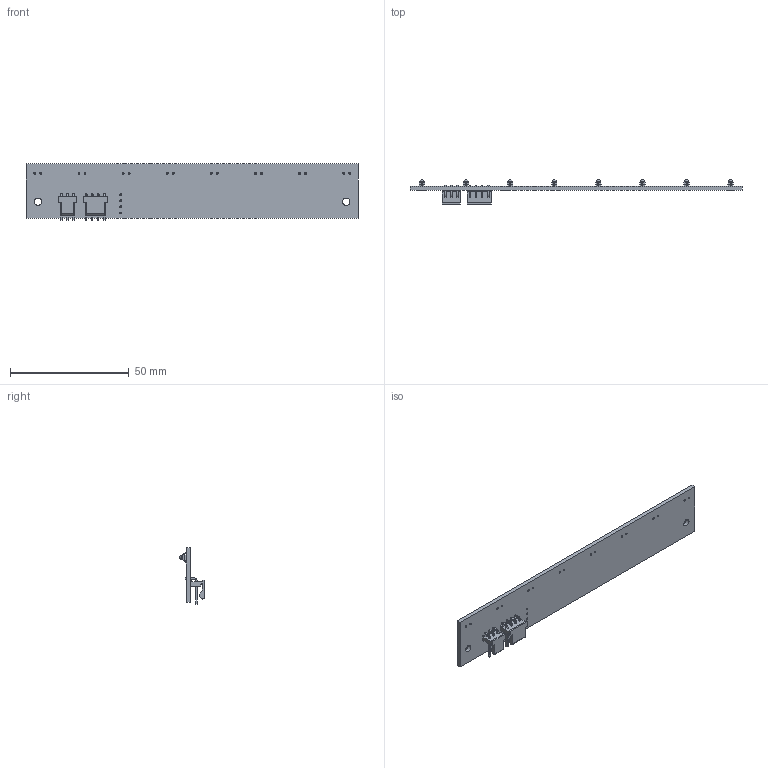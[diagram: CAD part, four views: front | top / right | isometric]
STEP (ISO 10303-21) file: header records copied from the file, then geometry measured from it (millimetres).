
FILE_DESCRIPTION(/* description */ (''),/* implementation_level */ '2;1');
FILE_NAME(/* name */ 'C:\Users\Andrea\SynologyDrive\Optoscan\Libreria Componenti\Eos\EOS_08\Eos_08-140\Esportazioni\Eos 8-140 EMTAp_RX.stp',/* time_stamp */ '2023-07-10T12:03:36+02:00',/* author */ ('Andrea'),/* organization */ (''),/* preprocessor_version */ 'ST-DEVELOPER v18.1',/* originating_system */ 'Autodesk Inventor 2022',/* authorisation */ '');
FILE_SCHEMA (('AUTOMOTIVE_DESIGN { 1 0 10303 214 3 1 1 }'));
Length unit declared in the file: millimetre
Products named in the file (1): Eos 8-140 EMTAp_RX
Bounding box: 139.98 x 10.32 x 23.74 mm (x, y, z)
Volume: 5665.1 mm3; surface area: 8006.7 mm2
Topology: 1 solids, 1 shells, 738 faces, 2096 edges, 1384 vertices
Faces by surface type: plane 580, cylinder 142, sphere 8, cone 8
Full cylindrical faces by diameter (mm): 0.8 x20, 1.8 x8, 3.1 x2
Entity records: 24749 total; most frequent: CARTESIAN_POINT 4219, ORIENTED_EDGE 4192, DIRECTION 3866, EDGE_CURVE 2096, LINE 1804, VECTOR 1804, VERTEX_POINT 1384, AXIS2_PLACEMENT_3D 1031
